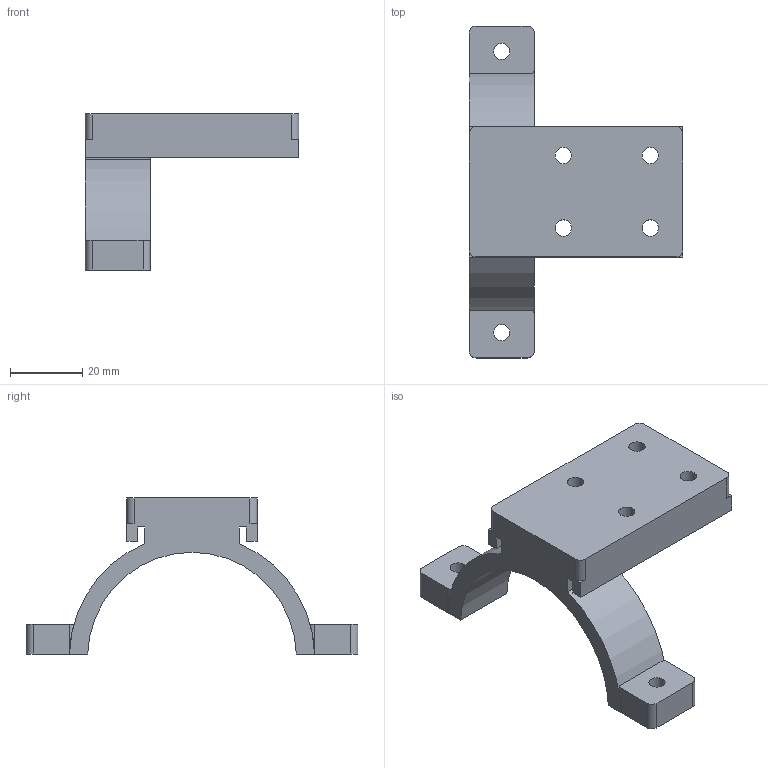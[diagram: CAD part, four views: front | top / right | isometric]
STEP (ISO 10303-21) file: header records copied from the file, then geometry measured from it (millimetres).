
FILE_DESCRIPTION(('Open CASCADE Model'),'2;1');
FILE_NAME('Open CASCADE Shape Model','2026-09-18T15:14:32',('Author'),( 'Open CASCADE'),'Open CASCADE STEP processor 7.9','Open CASCADE 7.9' ,'Unknown');
FILE_SCHEMA(('AUTOMOTIVE_DESIGN { 1 0 10303 214 1 1 1 1 }'));
Length unit declared in the file: millimetre
Products named in the file (1): Open CASCADE STEP translator 7.9 1
Bounding box: 59 x 91.6 x 43.05 mm (x, y, z)
Volume: 31328.2 mm3; surface area: 12512.9 mm2
Topology: 1 solids, 1 shells, 48 faces, 138 edges, 92 vertices
Faces by surface type: plane 27, cylinder 21
Full cylindrical faces by diameter (mm): 4.5 x6
Entity records: 3658 total; most frequent: CARTESIAN_POINT 939, DIRECTION 496, LINE 294, VECTOR 294, ORIENTED_EDGE 276, PCURVE 276, DEFINITIONAL_REPRESENTATION 276, EDGE_CURVE 138
